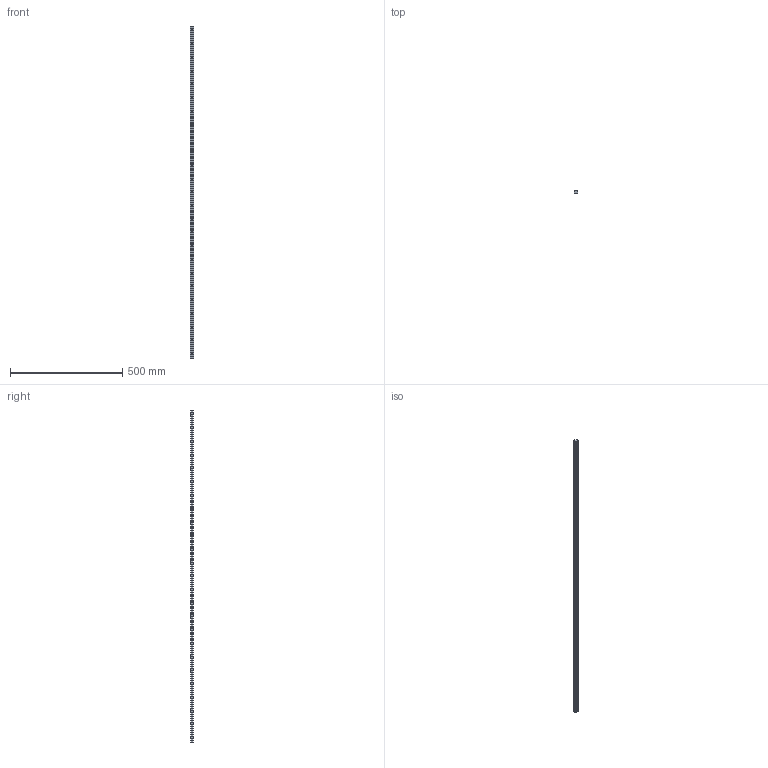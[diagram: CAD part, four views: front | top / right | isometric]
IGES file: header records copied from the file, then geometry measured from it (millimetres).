
Start section: SolidWorks IGES file using analytic representation for surfaces
Global section: file name: C:\Users\IanO\Desktop\L1016_v2\L1016.BL15_v2\L1016.BL15_v2_20190611_IGES\L1016.BL15-1480.igs; native system: SolidWorks 2017; preprocessor: SolidWorks 2017; author: IanO; date: 190612.122854; units: millimetre
Bounding box: 15 x 13 x 1480 mm (x, y, z)
Surface area: 90597.8 mm2 (no closed solid volume)
Topology: 0 solids, 0 shells, 151 faces, 3752 edges, 3752 vertices
Faces by surface type: revolution 104, bspline 47
